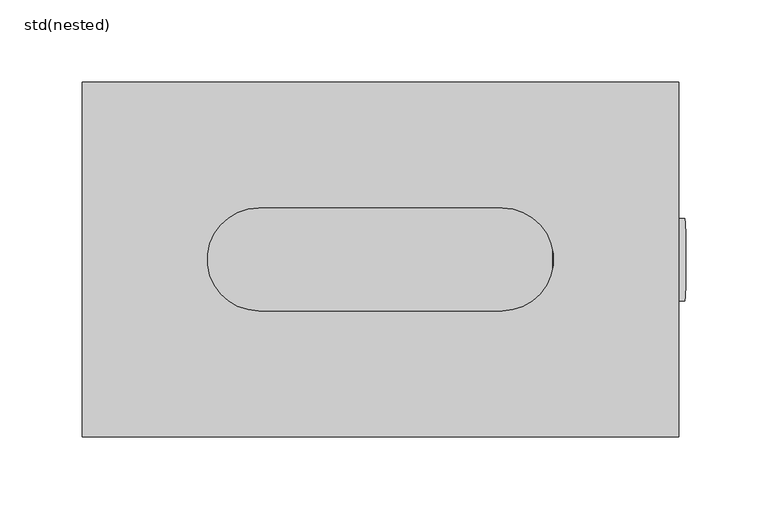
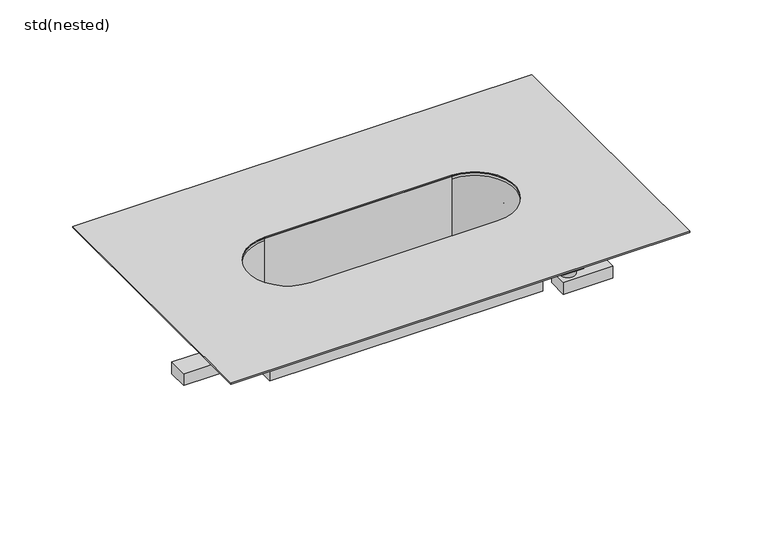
"""IFC4 building model written with IfcOpenShell, lengths in millimetres: sanitary terminal geometry, ZZZ_do not use_PF_ST_UN_floor drain ShowerDrain S+_ACO : std(nested)."""

from ifc_helpers import new_model, si_unit, point, frame, frame_2d, origin, place, context, project, spatial, polyline, circle_curve, trimmed, segment, composite_curve, outline, extrude, source, transform, mapped, element, save
from ifc_brep_helpers import plane_surface, revolved_surface, advanced_brep


def std_nested_fbe22e49(model_context):
    return source(origin(), model_context, "Body", "SolidModel", [
        extrude(outline(composite_curve([segment(trimmed(circle_curve(frame_2d((0.0, -25.0)), 25.0), [point((0.0, -50.0))], [point((0.0, 0.0))], False, "CARTESIAN"), True, "CONTINUOUS"), segment(trimmed(circle_curve(frame_2d((0.0, -25.0)), 25.0), [point((0.0, 0.0))], [point((0.0, -50.0))], False, "CARTESIAN"), True, "CONTINUOUS")], self_intersect=False), holes=[composite_curve([segment(trimmed(circle_curve(frame_2d((0.0, -25.0)), 23.0), [point((0.0, -48.0))], [point((0.0, -2.0))], True, "CARTESIAN"), True, "CONTINUOUS"), segment(trimmed(circle_curve(frame_2d((0.0, -25.0)), 23.0), [point((0.0, -2.0))], [point((0.0, -48.0))], True, "CARTESIAN"), True, "CONTINUOUS")], self_intersect=False)]), frame((185.1725137, -25.2244528, -1.9005007), z_axis=(-0.9996573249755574, 0.0, 0.026176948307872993), x_axis=(-0.026176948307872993, 0.0, -0.9996573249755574)), (0.0, 0.0, 1.0), 79.8878663),
        extrude(outline(polyline([(-121.951779, 8.0), (-121.951779, -8.0), (-160.951779, -8.0), (-160.951779, 8.0), (-121.951779, 8.0)])), frame((0.0, 0.0, -28.0111617), z_axis=(0.0, 0.0, 1.0), x_axis=(1.0, 0.0, 0.0)), (0.0, 0.0, 1.0), 10.0),
        extrude(outline(polyline([(158.0, 43.9690357), (158.0, 27.5575256), (119.0, 27.5575256), (119.0, 43.9690357), (158.0, 43.9690357)])), frame((0.0, 0.0, -28.0111617), z_axis=(0.0, 0.0, 1.0), x_axis=(1.0, 0.0, 0.0)), (0.0, 0.0, 1.0), 10.0),
        extrude(outline(polyline([(158.0, -27.5482191), (158.0, -43.5154528), (119.0, -43.5154528), (119.0, -27.5482191), (158.0, -27.5482191)])), frame((0.0, 0.0, -28.0111617), z_axis=(0.0, 0.0, 1.0), x_axis=(1.0, 0.0, 0.0)), (0.0, 0.0, 1.0), 10.0),
        extrude(outline(composite_curve([segment(trimmed(circle_curve(frame_2d((127.0109536, -35.53125)), 5.923615), [point((121.0873387, -35.53125))], [point((132.9345686, -35.53125))], False, "CARTESIAN"), True, "CONTINUOUS"), segment(trimmed(circle_curve(frame_2d((127.0109536, -35.53125)), 5.923615), [point((132.9345686, -35.53125))], [point((121.0873387, -35.53125))], False, "CARTESIAN"), True, "CONTINUOUS")], self_intersect=False)), frame((0.0, 0.0, -18.0111617), z_axis=(0.0, 0.0, 1.0), x_axis=(1.0, 0.0, 0.0)), (0.0, 0.0, 1.0), 50.0),
        extrude(outline(composite_curve([segment(trimmed(circle_curve(frame_2d((127.0, 35.7632806)), 5.8725233), [point((121.1274767, 35.7632806))], [point((132.8725233, 35.7632806))], False, "CARTESIAN"), True, "CONTINUOUS"), segment(trimmed(circle_curve(frame_2d((127.0, 35.7632806)), 5.8725233), [point((132.8725233, 35.7632806))], [point((121.1274767, 35.7632806))], False, "CARTESIAN"), True, "CONTINUOUS")], self_intersect=False)), frame((0.0, 0.0, -18.0111617), z_axis=(0.0, 0.0, 1.0), x_axis=(1.0, 0.0, 0.0)), (0.0, 0.0, 1.0), 50.0),
        extrude(outline(composite_curve([segment(trimmed(circle_curve(frame_2d((-130.0, 0.0)), 5.9292389), [point((-135.9292389, 0.0))], [point((-124.0707611, 0.0))], False, "CARTESIAN"), True, "CONTINUOUS"), segment(trimmed(circle_curve(frame_2d((-130.0, 0.0)), 5.9292389), [point((-124.0707611, 0.0))], [point((-135.9292389, 0.0))], False, "CARTESIAN"), True, "CONTINUOUS")], self_intersect=False)), frame((0.0, 0.0, -18.0111617), z_axis=(0.0, 0.0, 1.0), x_axis=(1.0, 0.0, 0.0)), (0.0, 0.0, 1.0), 50.0),
        advanced_brep(
        [(108.0, 34.0, -27.0111617), (108.0, -34.0, -27.0111617), (-108.0, -34.0, -27.0111617), (-108.0, 34.0, -27.0111617), (-108.0, 34.0, 38.9888383), (108.0, 34.0, 38.9888383), (108.0, 34.0, -0.0111617), (98.9702114, 34.0, -0.0111617), (98.9702114, 34.0, -12.0111617), (108.0, 34.0, -12.0111617), (-108.0, -34.0, 38.9888383), (-108.0, 8.0, -0.0111617), (-108.0, -8.0, -0.0111617), (-108.0, -8.0, -12.0111617), (-108.0, 8.0, -12.0111617), (108.0, -34.0, -12.0111617), (98.9979566, -34.0, -12.0111617), (98.9979566, -34.0, -0.0111617), (108.0, -34.0, -0.0111617), (108.0, -34.0, 38.9888383), (108.0, 24.987147, -12.0111617), (108.0, 24.987147, -0.0111617), (108.0, -24.9440727, -0.0111617), (108.0, -24.9440727, -12.0111617), (74.0, 31.2648216, -25.0111617), (-74.0, 31.2648216, -25.0111617), (-74.0, -31.2648216, -25.0111617), (74.0, -31.2648216, -25.0111617), (74.0, 31.2648216, 38.9888383), (74.0, 31.2648216, 40.9888383), (-74.0, 31.2648216, 40.9888383), (-74.0, 31.2648216, 38.9888383), (-74.0, -31.2648216, 38.9888383), (-74.0, -31.2648216, 40.9888383), (74.0, -31.2648216, 40.9888383), (74.0, -31.2648216, 38.9888383), (119.0, 45.0, 40.9888383), (-119.0, 45.0, 40.9888383), (-119.0, -45.0, 40.9888383), (119.0, -45.0, 40.9888383), (119.0, 45.0, 38.9888383), (119.0, -45.0, 38.9888383), (-119.0, -45.0, 38.9888383), (-119.0, 45.0, 38.9888383), (119.403911, -43.5154528, -0.0111617), (135.205755, -43.5154528, -0.0111617), (135.205755, -27.5482191, -0.0111617), (113.58461, -27.5482191, -0.0111617), (-138.0, -8.0, -0.0111617), (-138.0, 8.0, -0.0111617), (135.205755, 27.5575256, -0.0111617), (135.205755, 43.9690357, -0.0111617), (120.3488773, 43.9690357, -0.0111617), (113.588574, 27.5575256, -0.0111617), (119.403911, -43.5154528, -12.0111617), (113.58461, -27.5482191, -12.0111617), (135.205755, -27.5482191, -12.0111617), (135.205755, -43.5154528, -12.0111617), (135.205755, 27.5575256, -12.0111617), (113.588574, 27.5575256, -12.0111617), (120.3488773, 43.9690357, -12.0111617), (135.205755, 43.9690357, -12.0111617), (-138.0, -8.0, -12.0111617), (-138.0, 8.0, -12.0111617)],
        [
            (0, 1),
            (1, 2),
            (2, 3),
            (3, 0),
            (3, 4),
            (4, 5),
            (5, 6),
            (6, 7),
            (7, 8),
            (8, 9),
            (9, 0),
            (2, 10),
            (10, 4),
            (11, 12),
            (12, 13),
            (13, 14),
            (14, 11),
            (1, 15),
            (15, 16),
            (16, 17),
            (17, 18),
            (18, 19),
            (19, 10),
            (9, 20),
            (20, 21),
            (21, 6),
            (5, 19),
            (18, 22),
            (22, 23),
            (23, 15),
            (24, 25),
            (25, 26, circle_curve(frame((-74.0, 0.0, -25.0111617), z_axis=(0.0, 0.0, 1.0), x_axis=(1.0, 0.0, 0.0)), 31.2648216)),
            (26, 27),
            (27, 24, circle_curve(frame((74.0, 0.0, -25.0111617), z_axis=(0.0, 0.0, 1.0), x_axis=(1.0, 0.0, 0.0)), 31.2648216)),
            (24, 28),
            (28, 29),
            (29, 30),
            (30, 31),
            (31, 25),
            (31, 32, circle_curve(frame((-74.0, 0.0, 38.9888383), z_axis=(0.0, 0.0, 1.0), x_axis=(1.0, 0.0, 0.0)), 31.2648216)),
            (32, 26),
            (32, 33),
            (33, 34),
            (34, 35),
            (35, 27),
            (35, 28, circle_curve(frame((74.0, 0.0, 38.9888383), z_axis=(0.0, 0.0, 1.0), x_axis=(1.0, 0.0, 0.0)), 31.2648216)),
            (36, 37),
            (37, 38),
            (38, 39),
            (39, 36),
            (29, 34, circle_curve(frame((74.0, 0.0, 40.9888383), z_axis=(0.0, 0.0, -1.0), x_axis=(1.0, 0.0, 0.0)), 31.2648216)),
            (33, 30, circle_curve(frame((-74.0, 0.0, 40.9888383), z_axis=(0.0, 0.0, -1.0), x_axis=(1.0, 0.0, 0.0)), 31.2648216)),
            (40, 41),
            (41, 42),
            (42, 43),
            (43, 40),
            (36, 40),
            (43, 37),
            (42, 38),
            (41, 39),
            (44, 45),
            (45, 46),
            (46, 47),
            (47, 22),
            (17, 44),
            (48, 12),
            (11, 49),
            (49, 48),
            (50, 51),
            (51, 52),
            (52, 7),
            (21, 53),
            (53, 50),
            (54, 16),
            (23, 55),
            (55, 56),
            (56, 57),
            (57, 54),
            (58, 59),
            (59, 20),
            (8, 60),
            (60, 61),
            (61, 58),
            (62, 63),
            (63, 14),
            (13, 62),
            (44, 54),
            (57, 45),
            (46, 56),
            (55, 47),
            (51, 61),
            (60, 52),
            (59, 53),
            (58, 50),
            (48, 62),
            (63, 49),
        ],
        [
            plane_surface(frame((-108.0, 34.0, -27.0111617), z_axis=(0.0, 0.0, -1.0), x_axis=(1.0, 0.0, 0.0))),
            plane_surface(frame((108.0, 34.0, 38.9888383), z_axis=(0.0, 1.0, 0.0), x_axis=(0.0, 0.0, -1.0))),
            plane_surface(frame((-108.0, 34.0, 38.9888383), z_axis=(-1.0, 0.0, 0.0), x_axis=(0.0, 0.0, -1.0))),
            plane_surface(frame((-108.0, -34.0, 38.9888383), z_axis=(0.0, -1.0, 0.0), x_axis=(0.0, 0.0, -1.0))),
            plane_surface(frame((108.0, -34.0, 38.9888383), z_axis=(1.0, 0.0, 0.0), x_axis=(0.0, 0.0, -1.0))),
            plane_surface(frame((-74.0, 31.2648216, -25.0111617), z_axis=(0.0, 0.0, 1.0), x_axis=(1.0, 0.0, 0.0))),
            plane_surface(frame((74.0, 31.2648216, 38.9888383), z_axis=(0.0, -1.0, 0.0), x_axis=(0.0, 0.0, -1.0))),
            revolved_surface(polyline([(-42.735178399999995, 0.0, 38.9888383), (-42.735178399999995, 0.0, -25.0111617)]), (-74.0, 0.0, -25.0111617), (0.0, 0.0, 1.0)),
            plane_surface(frame((-74.0, -31.2648216, 38.9888383), z_axis=(0.0, 1.0, 0.0), x_axis=(0.0, 0.0, -1.0))),
            revolved_surface(polyline([(105.2648216, 0.0, 38.9888383), (105.2648216, 0.0, -25.0111617)]), (74.0, 0.0, -25.0111617), (0.0, 0.0, 1.0)),
            plane_surface(frame((-119.0, 45.0, 40.9888383), z_axis=(0.0, 0.0, 1.0), x_axis=(-1.0, 0.0, 0.0))),
            plane_surface(frame((-119.0, 45.0, 38.9888383), z_axis=(0.0, 0.0, -1.0), x_axis=(1.0, 0.0, 0.0))),
            plane_surface(frame((119.0, 45.0, 40.9888383), z_axis=(0.0, 1.0, 0.0), x_axis=(0.0, 0.0, -1.0))),
            plane_surface(frame((-119.0, 45.0, 40.9888383), z_axis=(-1.0, 0.0, 0.0), x_axis=(0.0, 0.0, -1.0))),
            plane_surface(frame((-119.0, -45.0, 40.9888383), z_axis=(0.0, -1.0, 0.0), x_axis=(0.0, 0.0, -1.0))),
            plane_surface(frame((119.0, -45.0, 40.9888383), z_axis=(1.0, 0.0, 0.0), x_axis=(0.0, 0.0, -1.0))),
            revolved_surface(polyline([(105.2648216, 0.0, 38.9888383), (105.2648216, 0.0, 40.9888383)]), (74.0, 0.0, 41.9888383), (0.0, 0.0, -1.0)),
            revolved_surface(polyline([(-42.735178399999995, 0.0, 38.9888383), (-42.735178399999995, 0.0, 40.9888383)]), (-74.0, 0.0, 41.9888383), (0.0, 0.0, -1.0)),
            plane_surface(frame((119.403911, -43.5154528, -0.0111617), z_axis=(0.0, 0.0, 1.0), x_axis=(1.0, 0.0, 0.0))),
            plane_surface(frame((119.403911, -43.5154528, -12.0111617), z_axis=(0.0, 0.0, -1.0), x_axis=(-1.0, 0.0, 0.0))),
            plane_surface(frame((119.403911, -43.5154528, -0.0111617), z_axis=(0.0, -1.0, 0.0), x_axis=(0.0, 0.0, -1.0))),
            plane_surface(frame((135.205755, -27.5482191, -0.0111617), z_axis=(0.0, 1.0, 0.0), x_axis=(0.0, 0.0, -1.0))),
            plane_surface(frame((113.58461, -27.5482191, -0.0111617), z_axis=(0.42261826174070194, 0.9063077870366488, 0.0), x_axis=(0.0, 0.0, -1.0))),
            plane_surface(frame((98.9979566, -34.0, -0.0111617), z_axis=(-0.4226182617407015, -0.906307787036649, 0.0), x_axis=(0.0, 0.0, -1.0))),
            plane_surface(frame((135.205755, 43.9690357, -0.0111617), z_axis=(0.0, 1.0, 0.0), x_axis=(0.0, 0.0, -1.0))),
            plane_surface(frame((120.3488773, 43.9690357, -0.0111617), z_axis=(-0.4226182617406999, 0.9063077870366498, 0.0), x_axis=(0.0, 0.0, -1.0))),
            plane_surface(frame((108.0, 24.987147, -0.0111617), z_axis=(0.41785657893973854, -0.9085130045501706, 0.0), x_axis=(0.0, 0.0, -1.0))),
            plane_surface(frame((113.588574, 27.5575256, -0.0111617), z_axis=(0.0, -1.0, 0.0), x_axis=(0.0, 0.0, -1.0))),
            plane_surface(frame((-138.0, -8.0, -0.0111617), z_axis=(0.0, -1.0, 0.0), x_axis=(0.0, 0.0, -1.0))),
            plane_surface(frame((-108.0, 8.0, -0.0111617), z_axis=(0.0, 1.0, 0.0), x_axis=(0.0, 0.0, -1.0))),
            plane_surface(frame((135.205755, -43.5154528, -0.0111617), z_axis=(1.0, 0.0, 0.0), x_axis=(0.0, 0.0, -1.0))),
            plane_surface(frame((135.205755, 27.5575256, -0.0111617), z_axis=(1.0, 0.0, 0.0), x_axis=(0.0, 0.0, -1.0))),
            plane_surface(frame((-138.0, 8.0, -0.0111617), z_axis=(-1.0, 0.0, 0.0), x_axis=(0.0, 0.0, -1.0))),
        ],
        [
            (0, [[1, 2, 3, 4]]),
            (1, [[-4, 5, 6, 7, 8, 9, 10, 11]]),
            (2, [[-3, 12, 13, -5], [14, 15, 16, 17]]),
            (3, [[-2, 18, 19, 20, 21, 22, 23, -12]]),
            (4, [[-1, -11, 24, 25, 26, -7, 27, -22, 28, 29, 30, -18]]),
            (5, [[31, 32, 33, 34]]),
            (6, [[-31, 35, 36, 37, 38, 39]]),
            (7, [[-32, -39, 40, 41]]),
            (8, [[-33, -41, 42, 43, 44, 45]]),
            (9, [[-34, -45, 46, -35]]),
            (10, [[47, 48, 49, 50], [51, -43, 52, -37]]),
            (11, [[53, 54, 55, 56], [-6, -13, -23, -27]]),
            (12, [[-47, 57, -56, 58]]),
            (13, [[-48, -58, -55, 59]]),
            (14, [[-49, -59, -54, 60]]),
            (15, [[-50, -60, -53, -57]]),
            (16, [[-51, -36, -46, -44]]),
            (17, [[-52, -42, -40, -38]]),
            (18, [[61, 62, 63, 64, -28, -21, 65]]),
            (18, [[66, -14, 67, 68]]),
            (18, [[69, 70, 71, -8, -26, 72, 73]]),
            (19, [[74, -19, -30, 75, 76, 77, 78]]),
            (19, [[79, 80, -24, -10, 81, 82, 83]]),
            (19, [[84, 85, -16, 86]]),
            (20, [[-61, 87, -78, 88]]),
            (21, [[-63, 89, -76, 90]]),
            (22, [[-64, -90, -75, -29]]),
            (23, [[-65, -20, -74, -87]]),
            (24, [[-70, 91, -82, 92]]),
            (25, [[-71, -92, -81, -9]]),
            (26, [[-72, -25, -80, 93]]),
            (27, [[-73, -93, -79, 94]]),
            (28, [[-66, 95, -86, -15]]),
            (29, [[-67, -17, -85, 96]]),
            (30, [[-62, -88, -77, -89]]),
            (31, [[-69, -94, -83, -91]]),
            (32, [[-68, -96, -84, -95]]),
        ],
    ),
        extrude(outline(polyline([(181.5, 108.0), (181.5, -108.0), (-181.5, -108.0), (-181.5, 108.0), (181.5, 108.0)]), holes=[composite_curve([segment(polyline([(74.0, 31.2648216), (-74.0, 31.2648216)]), True, "CONTINUOUS"), segment(trimmed(circle_curve(frame_2d((-74.0, 0.0)), 31.2648216), [point((-74.0, 31.2648216))], [point((-74.0, -31.2648216))], True, "CARTESIAN"), True, "CONTINUOUS"), segment(polyline([(-74.0, -31.2648216), (74.0, -31.2648216)]), True, "CONTINUOUS"), segment(trimmed(circle_curve(frame_2d((74.0, 0.0)), 31.2648216), [point((74.0, -31.2648216))], [point((74.0, 31.2648216))], True, "CARTESIAN"), True, "CONTINUOUS")], self_intersect=False)]), frame((0.0, 0.0, 40.9888383), z_axis=(0.0, 0.0, 1.0), x_axis=(1.0, 0.0, 0.0)), (0.0, 0.0, 1.0), 1.0),
    ])


if __name__ == "__main__":
    model = new_model("IFC4")
    model_context = context("Model", 3, world=origin())
    ifc_project = project(units=[si_unit("LENGTHUNIT", "METRE", prefix="MILLI")], contexts=[model_context])
    site = spatial("IfcSite", under=ifc_project)
    building = spatial("IfcBuilding", under=site)
    placement = place(None, origin())
    std_nested_shape = std_nested_fbe22e49(model_context)
    element("IfcSanitaryTerminal", 1, ObjectType="ZZZ_do not use_PF_ST_UN_floor drain ShowerDrain S+_ACO : std(nested)", at=placement, inside=building, context=model_context, shape_type="MappedRepresentation", body=[
        mapped(std_nested_shape, transform((0.0, 0.0, 0.0), x_axis=(1.0, 0.0, 0.0), y_axis=(0.0, 1.0, 0.0), z_axis=(0.0, 0.0, 1.0))),
    ])
    save(model, "model.ifc")
